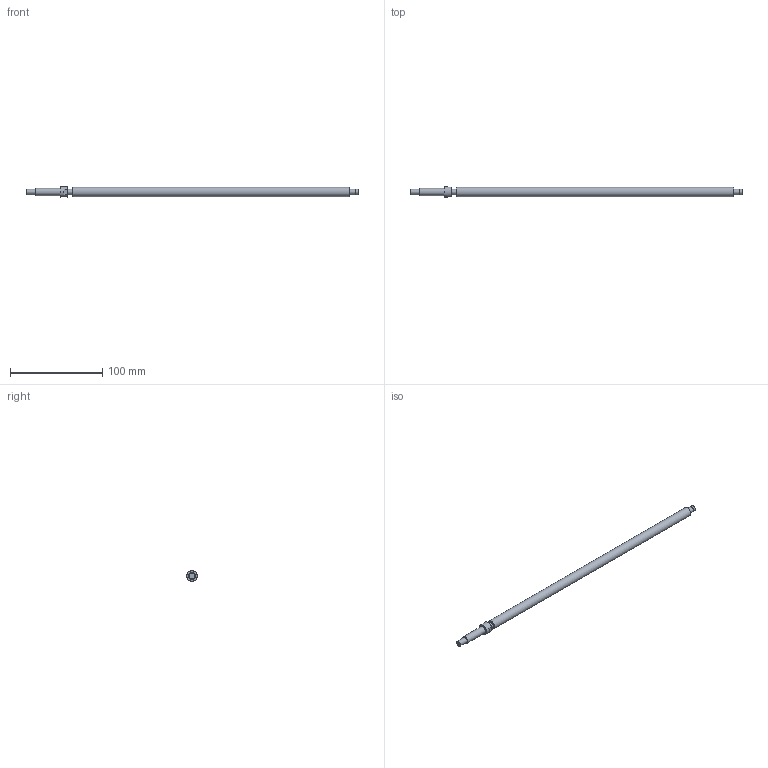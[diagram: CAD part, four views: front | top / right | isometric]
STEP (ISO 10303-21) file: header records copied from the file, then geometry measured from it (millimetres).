
FILE_DESCRIPTION((''),'2;1');
FILE_NAME('D:\製品 (図面)\カタログ用3D\ネジ関連\STEP形式\JK\JK10.stp','2010-06-11T10:46:25',('Tsuchiya'),(''),'Autodesk Inventor 10','Autodesk Inventor 10','');
FILE_SCHEMA(('AUTOMOTIVE_DESIGN { 1 0 10303 214 1 1 1 1 }'));
Length unit declared in the file: millimetre
Products named in the file (1): JK10
Bounding box: 359 x 11.5 x 11.5 mm (x, y, z)
Volume: 26403.4 mm3; surface area: 11155.7 mm2
Topology: 1 solids, 1 shells, 21 faces, 36 edges, 24 vertices
Faces by surface type: plane 13, cylinder 8
Full cylindrical faces by diameter (mm): 5.7 x1, 6 x4, 8 x1, 10 x1, 11.5 x1
Entity records: 483 total; most frequent: DIRECTION 90, CARTESIAN_POINT 72, ORIENTED_EDGE 54, AXIS2_PLACEMENT_3D 41, EDGE_LOOP 36, EDGE_CURVE 27, VERTEX_POINT 23, FACE_OUTER_BOUND 21
